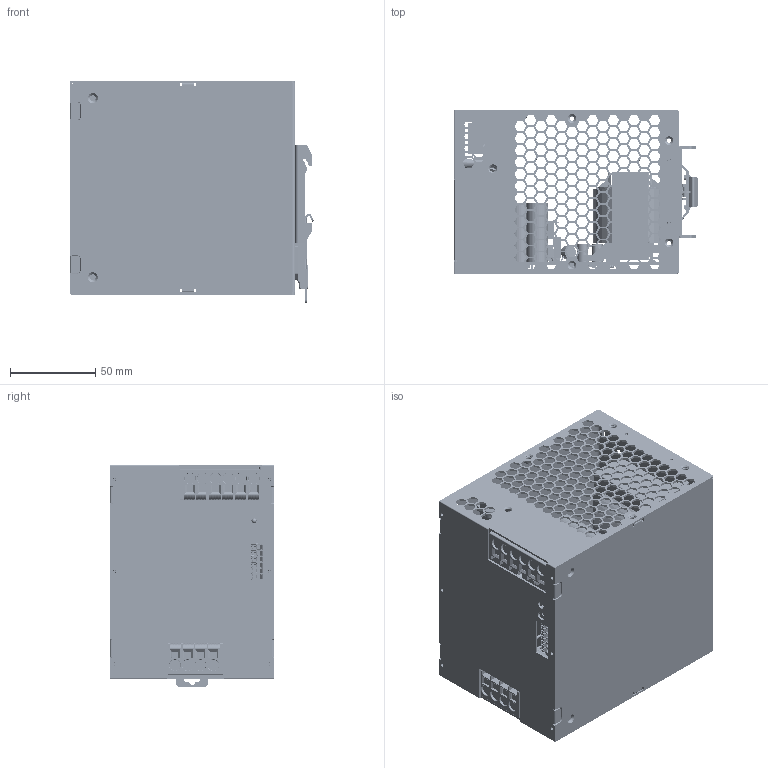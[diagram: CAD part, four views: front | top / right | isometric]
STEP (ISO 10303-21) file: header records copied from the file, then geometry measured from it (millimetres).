
FILE_DESCRIPTION(('Creo Elements/Direct Modeling STEP Export'),'2;1');
FILE_NAME('XTR-960PI.stp','2025-03-31T13:49:40',(''),(''),'Creo Elements/Direct Modeling STEP processor for AP214 (Solid Model)','Creo Elements/Direct Modeling 19.0G 27-Nov-2017 (C) Parametric Technology GmbH','');
FILE_SCHEMA(('AUTOMOTIVE_DESIGN { 1 0 10303 214 1 1 1 1 }'));
Length unit declared in the file: millimetre
Products named in the file (874): BOARD.PRT; MPX410H-7508043701_20241017.PRT; TB1B.ASM; 1052995560_1.PRT; 1052995560_2.PRT; 1052995560_3.PRT; 1052995560_4.PRT; 1052995560.ASM; R157.ASM; 1052999664_1.PRT; 1052999664_2.PRT; 1052999664_3.PRT; 1052999664_4.PRT; 1052999664.ASM; R156.ASM; R155.ASM; R154.ASM; R153.ASM; 1052999968_1.PRT; 1052999968_2.PRT; 1052999968_3.PRT; 1052999968_4.PRT; 1052999968.ASM; R152.ASM; R151.ASM; 2CDX-SOT23.PRT; Q121.ASM; Q120.ASM; 1052992672.PRT; C119.ASM; 2CUX-DBV-5_SOT23-5_.PRT; U103.ASM; CYLINDER-126040.PRT; 560062552.ASM; CYLINDER-126232.PRT; 560062400.ASM; SPHERE-126424.PRT; 560062248.ASM; SPHERE-126478.PRT; 560062096.ASM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
Assembly tree (1342 placements, depth 10):
  PI
    挂钩.1
      P3.PRT
      P1.PRT
    XTR-960C.1
      PCB.ASM
        T1.ASM
          VRL-5952-20250108_2_.ASM
            _X2_96F64EF6_X0_1_PRT.PRT
            VRL-5950-20250103_STP_ASM.ASM
              ETD-59-20241017_STP_ASM_ASM.ASM
                ETD-59-20241017_STP_ASM_ASM_ASM.ASM
                  ETD59_STP_ASM_ASM_ASM_ASM.ASM
                  PIN_1_2_ASM_ASM_ASM_ASM.ASM
                  CIX_ASM_ASM_ASM_ASM.ASM
                _X2_7EBF5305_X0__PRT_PRT.PRT
                _X2_96F64EF6_X0_2_PRT_PRT.PRT
                _X2_96F64EF6_X0_2_1_PRT_PRT.PRT
                _X2_96F64EF6_X0_2_2_PRT_PRT.PRT
        C58.ASM
          994862088.PRT
        C57.ASM
          994862088.PRT
        C153.ASM
          1093922384.ASM
            EXTRUDED-423942.PRT
          1098707256.ASM
            CYLINDER-423750.PRT
          1098707104.ASM.5  x2
            CYLINDER-134994.PRT
          1098706952.ASM
            CYLINDER-423548.PRT
        SHR1.ASM
          2CDX-SOT23.PRT
        R914.ASM
          994864216.ASM
            994864216_4.PRT
            994864216_3.PRT
            994864216_2.PRT
            994864216_1.PRT
        R913.ASM
          994864216.ASM
            994864216_4.PRT
            994864216_3.PRT
            994864216_2.PRT
            994864216_1.PRT
        R912.ASM
          994864216.ASM
            994864216_4.PRT
            994864216_3.PRT
            994864216_2.PRT
            994864216_1.PRT
        R904.ASM
          994869536.ASM
            994869536_4.PRT
            994869536_3.PRT
            994869536_2.PRT
            994869536_1.PRT
        R903.ASM
          994869536.ASM
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Bounding box: 143.01 x 96 x 130.2 mm (x, y, z)
Volume: 327924.6 mm3; surface area: 312693 mm2
Topology: 1242 solids, 1249 shells, 35008 faces, 91336 edges, 59644 vertices
Faces by surface type: plane 20669, extrusion 8358, cylinder 4477, sphere 835, torus 334, cone 188, bspline 132, revolution 15
Entity records: 434702 total; most frequent: CARTESIAN_POINT 114397, ORIENTED_EDGE 60244, DIRECTION 53775, EDGE_CURVE 30197, VECTOR 23694, LINE 22769, VERTEX_POINT 19921, AXIS2_PLACEMENT_3D 15038
